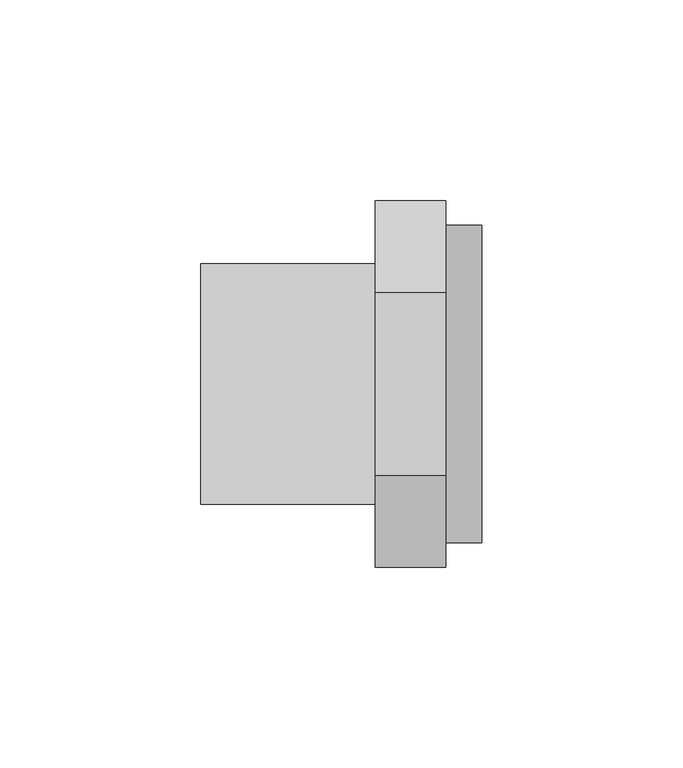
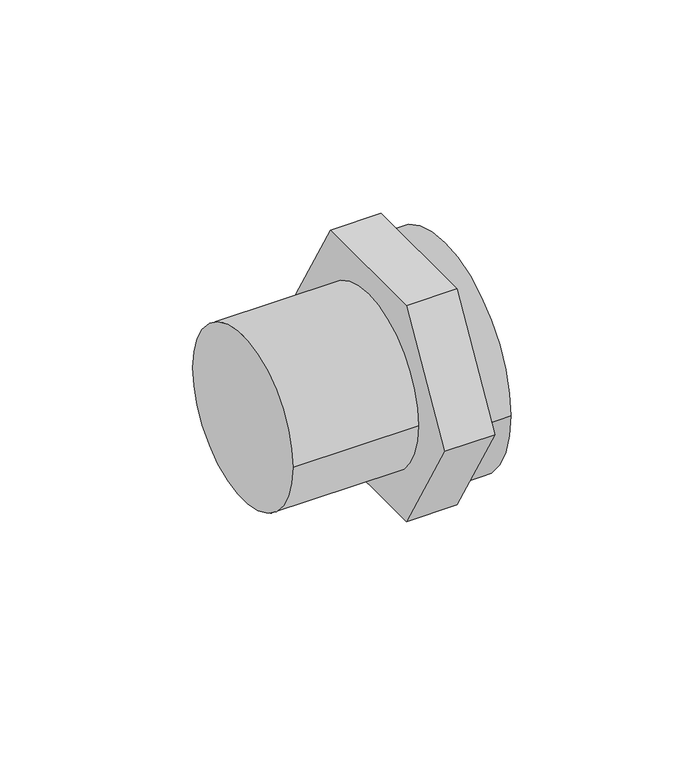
"""IFC4 building model written with IfcOpenShell, lengths in millimetres: pipe fitting geometry, 01021006 : Uniões de redução M/F c/ anilhas de reforço."""

from ifc_helpers import new_model, si_unit, point, frame, origin, origin_2d, place, context, project, spatial, polyline, circle_curve, trimmed, segment, composite_curve, outline, extrude, source, transform, mapped, element, save


def pipe_fitting_11745a24(model_context):
    return source(origin(), model_context, "Body", "SweptSolid", [
        extrude(outline(composite_curve([segment(trimmed(circle_curve(origin_2d(), 30.0), [point((30.0, 0.0))], [point((-30.0, 0.0))], False, "CARTESIAN"), True, "CONTINUOUS"), segment(trimmed(circle_curve(origin_2d(), 30.0), [point((-30.0, 0.0))], [point((30.0, 0.0))], False, "CARTESIAN"), True, "CONTINUOUS")], self_intersect=False)), frame((0.0, 0.0, 0.0), z_axis=(1.0, 0.0, 0.0), x_axis=(0.0, 1.0, 0.0)), (0.0, 0.0, 1.0), 43.5),
        extrude(outline(polyline([(-22.8053356, 39.5), (22.8053356, 39.5), (45.6106713, 0.0), (22.8053356, -39.5), (-22.8053356, -39.5), (-45.6106713, 0.0), (-22.8053356, 39.5)])), frame((43.5, 0.0, 0.0), z_axis=(1.0, 0.0, 0.0), x_axis=(0.0, 1.0, 0.0)), (0.0, 0.0, 1.0), 17.5),
        extrude(outline(composite_curve([segment(trimmed(circle_curve(origin_2d(), 39.5), [point((-39.5, 0.0))], [point((39.5, 0.0))], False, "CARTESIAN"), True, "CONTINUOUS"), segment(trimmed(circle_curve(origin_2d(), 39.5), [point((39.5, 0.0))], [point((-39.5, 0.0))], False, "CARTESIAN"), True, "CONTINUOUS")], self_intersect=False)), frame((61.0, 0.0, 0.0), z_axis=(1.0, 0.0, 0.0), x_axis=(0.0, 1.0, 0.0)), (0.0, 0.0, 1.0), 9.0),
    ])


if __name__ == "__main__":
    model = new_model("IFC4")
    model_context = context("Model", 3, world=origin())
    ifc_project = project(units=[si_unit("LENGTHUNIT", "METRE", prefix="MILLI")], contexts=[model_context])
    site = spatial("IfcSite", under=ifc_project)
    building = spatial("IfcBuilding", under=site)
    placement = place(None, origin())
    pipe_fitting_shape = pipe_fitting_11745a24(model_context)
    element("IfcPipeFitting", 1, ObjectType="01021006 : Uniões de redução M/F c/ anilhas de reforço", at=placement, inside=building, context=model_context, shape_type="MappedRepresentation", body=[
        mapped(pipe_fitting_shape, transform((0.0, 0.0, 0.0), x_axis=(1.0, 0.0, 0.0), y_axis=(0.0, 1.0, 0.0), z_axis=(0.0, 0.0, 1.0))),
    ])
    save(model, "model.ifc")
